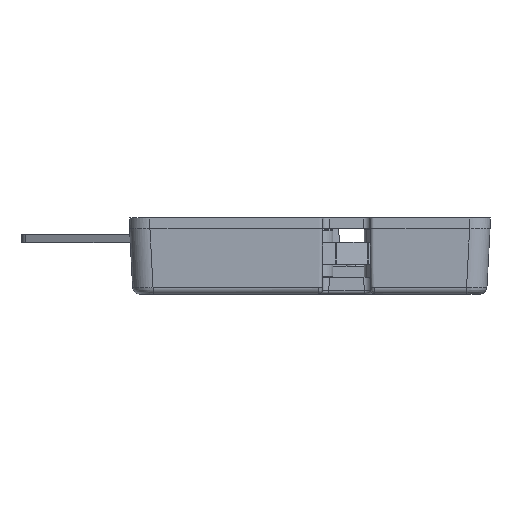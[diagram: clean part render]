
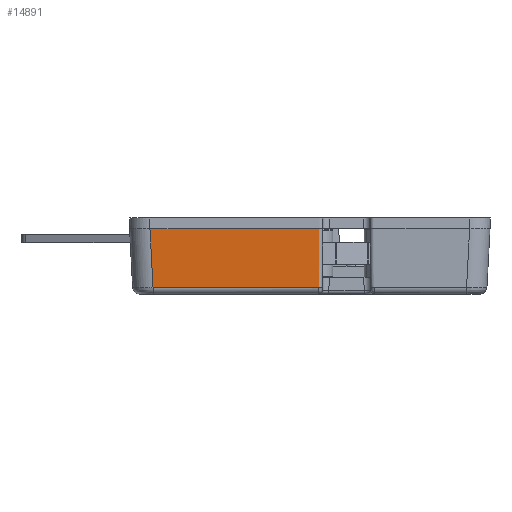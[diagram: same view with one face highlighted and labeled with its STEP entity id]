
A CAD part, left-side view. The second image highlights one B-rep face of the part: STEP entity #14891.
In plain terms, the highlighted planar face has unit normal (-0.999, 0, -0.052).
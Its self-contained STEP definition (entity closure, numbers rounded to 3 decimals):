
#399 = LINE ( 'NONE', #14781, #2156 ) ;
#866 = ORIENTED_EDGE ( 'NONE', *, *, #16252, .T. ) ;
#881 = DIRECTION ( 'NONE',  ( -1., 0., 0. ) ) ;
#1968 = DIRECTION ( 'NONE',  ( -0.052, 0., 0.999 ) ) ;
#2156 = VECTOR ( 'NONE', #29147, 1000. ) ;
#4003 = ORIENTED_EDGE ( 'NONE', *, *, #18098, .T. ) ;
#4961 = DIRECTION ( 'NONE',  ( -1., 0., 0. ) ) ;
#5716 = CARTESIAN_POINT ( 'NONE',  ( 3., 50., 7.1 ) ) ;
#5961 = VERTEX_POINT ( 'NONE', #43302 ) ;
#9124 = EDGE_CURVE ( 'NONE', #40718, #40231, #23763, .T. ) ;
#9418 = VERTEX_POINT ( 'NONE', #32253 ) ;
#12864 = EDGE_LOOP ( 'NONE', ( #38066, #4003, #42833, #28368, #866, #27749 ) ) ;
#12944 = LINE ( 'NONE', #16011, #22608 ) ;
#14004 = CARTESIAN_POINT ( 'NONE',  ( 0., 25.1, 7.1 ) ) ;
#14359 = CIRCLE ( 'NONE', #45212, 3. ) ;
#14781 = CARTESIAN_POINT ( 'NONE',  ( 0.453, 24.684, -1.552 ) ) ;
#14814 = VECTOR ( 'NONE', #33685, 1000. ) ;
#14891 = ADVANCED_FACE ( 'NONE', ( #22952 ), #45091, .T. ) ;
#16011 = CARTESIAN_POINT ( 'NONE',  ( -0.011, 25.098, 7.318 ) ) ;
#16252 = EDGE_CURVE ( 'NONE', #5961, #40718, #14359, .T. ) ;
#16437 = CARTESIAN_POINT ( 'NONE',  ( 0., 0., 7.1 ) ) ;
#18098 = EDGE_CURVE ( 'NONE', #40315, #21968, #12944, .T. ) ;
#18103 = AXIS2_PLACEMENT_3D ( 'NONE', #26172, #18650, #4961 ) ;
#18650 = DIRECTION ( 'NONE',  ( 0., 0., -1. ) ) ;
#19652 = DIRECTION ( 'NONE',  ( 0., 0., -1. ) ) ;
#20203 = LINE ( 'NONE', #16437, #26152 ) ;
#21968 = VERTEX_POINT ( 'NONE', #14004 ) ;
#22608 = VECTOR ( 'NONE', #30380, 1000. ) ;
#22952 = FACE_OUTER_BOUND ( 'NONE', #12864, .T. ) ;
#23763 = LINE ( 'NONE', #44752, #14814 ) ;
#24471 = CARTESIAN_POINT ( 'NONE',  ( 0., 50.004, 7.1 ) ) ;
#24548 = EDGE_CURVE ( 'NONE', #5961, #9418, #20203, .T. ) ;
#26152 = VECTOR ( 'NONE', #30810, 1000. ) ;
#26172 = CARTESIAN_POINT ( 'NONE',  ( 0.5, 25.1, 7.1 ) ) ;
#26318 = EDGE_CURVE ( 'NONE', #40231, #40315, #399, .T. ) ;
#26356 = CIRCLE ( 'NONE', #18103, 0.5 ) ;
#27749 = ORIENTED_EDGE ( 'NONE', *, *, #9124, .T. ) ;
#28368 = ORIENTED_EDGE ( 'NONE', *, *, #24548, .F. ) ;
#29147 = DIRECTION ( 'NONE',  ( 0., -1., 0. ) ) ;
#30266 = DIRECTION ( 'NONE',  ( -0.999, 0., -0.052 ) ) ;
#30380 = DIRECTION ( 'NONE',  ( -0.052, -0.009, 0.999 ) ) ;
#30810 = DIRECTION ( 'NONE',  ( 0., -1., 0. ) ) ;
#31810 = CARTESIAN_POINT ( 'NONE',  ( 0.453, 49.551, -1.552 ) ) ;
#32168 = EDGE_CURVE ( 'NONE', #21968, #9418, #26356, .T. ) ;
#32253 = CARTESIAN_POINT ( 'NONE',  ( 0., 25.1, 7.1 ) ) ;
#33685 = DIRECTION ( 'NONE',  ( 0.052, -0.052, -0.997 ) ) ;
#34242 = CARTESIAN_POINT ( 'NONE',  ( 0., 0., 7.1 ) ) ;
#38066 = ORIENTED_EDGE ( 'NONE', *, *, #26318, .T. ) ;
#40231 = VERTEX_POINT ( 'NONE', #31810 ) ;
#40315 = VERTEX_POINT ( 'NONE', #45944 ) ;
#40718 = VERTEX_POINT ( 'NONE', #24471 ) ;
#42074 = AXIS2_PLACEMENT_3D ( 'NONE', #34242, #30266, #1968 ) ;
#42833 = ORIENTED_EDGE ( 'NONE', *, *, #32168, .T. ) ;
#43302 = CARTESIAN_POINT ( 'NONE',  ( 0., 50., 7.1 ) ) ;
#44752 = CARTESIAN_POINT ( 'NONE',  ( 0.137, 49.868, 4.494 ) ) ;
#45091 = PLANE ( 'NONE',  #42074 ) ;
#45212 = AXIS2_PLACEMENT_3D ( 'NONE', #5716, #19652, #881 ) ;
#45944 = CARTESIAN_POINT ( 'NONE',  ( 0.453, 25.175, -1.552 ) ) ;
